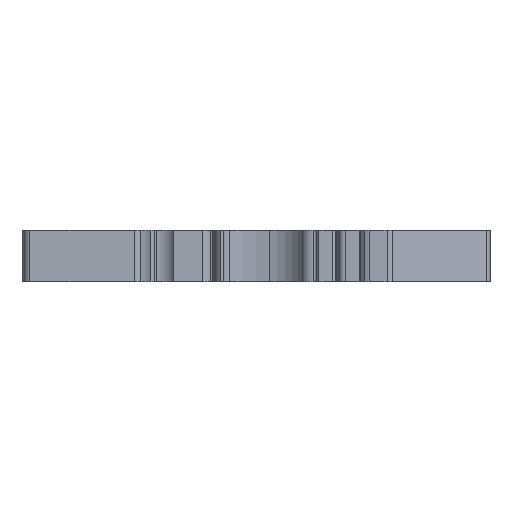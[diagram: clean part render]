
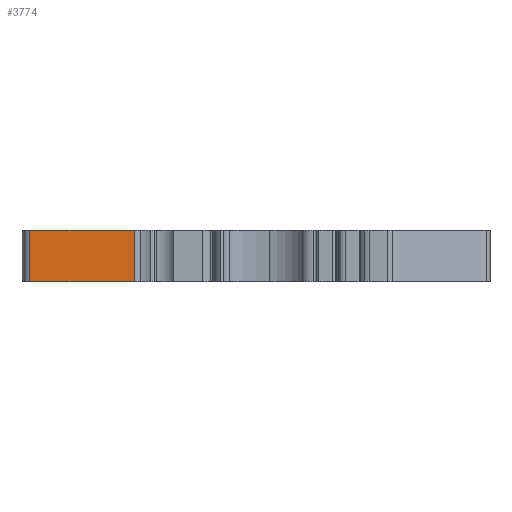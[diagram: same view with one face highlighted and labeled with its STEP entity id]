
A CAD part, front view. The second image highlights one B-rep face of the part: STEP entity #3774.
In plain terms, the highlighted planar face has unit normal (0, -1, 0).
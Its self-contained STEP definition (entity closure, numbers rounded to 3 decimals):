
#1826=CARTESIAN_POINT('',(-35.538,-24.2,3.99));
#1827=VERTEX_POINT('',#1826);
#1835=CARTESIAN_POINT('',(-19.087,-24.2,3.99));
#1836=VERTEX_POINT('',#1835);
#1837=CARTESIAN_POINT('',(-19.087,-24.2,3.99));
#1838=DIRECTION('',(-1.,0.,0.));
#1839=VECTOR('',#1838,16.451);
#1840=LINE('',#1837,#1839);
#1841=EDGE_CURVE('',#1836,#1827,#1840,.T.);
#3731=CARTESIAN_POINT('',(-35.538,-24.2,-4.16));
#3732=VERTEX_POINT('',#3731);
#3740=CARTESIAN_POINT('',(-35.538,-24.2,-4.16));
#3741=DIRECTION('',(0.,0.,1.));
#3742=VECTOR('',#3741,8.15);
#3743=LINE('',#3740,#3742);
#3744=EDGE_CURVE('',#3732,#1827,#3743,.T.);
#3751=CARTESIAN_POINT('',(-27.312,-24.2,-0.085));
#3752=DIRECTION('',(0.,0.,1.));
#3753=DIRECTION('',(0.,1.,0.));
#3754=AXIS2_PLACEMENT_3D('',#3751,#3753,#3752);
#3755=PLANE('',#3754);
#3756=ORIENTED_EDGE('',*,*,#3744,.T.);
#3757=ORIENTED_EDGE('',*,*,#1841,.F.);
#3758=CARTESIAN_POINT('',(-19.087,-24.2,-4.16));
#3759=VERTEX_POINT('',#3758);
#3760=CARTESIAN_POINT('',(-19.087,-24.2,-4.16));
#3761=DIRECTION('',(0.,0.,1.));
#3762=VECTOR('',#3761,8.15);
#3763=LINE('',#3760,#3762);
#3764=EDGE_CURVE('',#3759,#1836,#3763,.T.);
#3765=ORIENTED_EDGE('E412',*,*,#3764,.F.);
#3766=CARTESIAN_POINT('',(-19.087,-24.2,-4.16));
#3767=DIRECTION('',(-1.,0.,0.));
#3768=VECTOR('',#3767,16.451);
#3769=LINE('',#3766,#3768);
#3770=EDGE_CURVE('',#3759,#3732,#3769,.T.);
#3771=ORIENTED_EDGE('E1427',*,*,#3770,.T.);
#3772=EDGE_LOOP('',(#3756,#3757,#3765,#3771));
#3773=FACE_OUTER_BOUND('',#3772,.F.);
#3774=ADVANCED_FACE('F91',(#3773),#3755,.F.);
